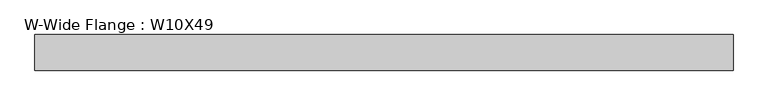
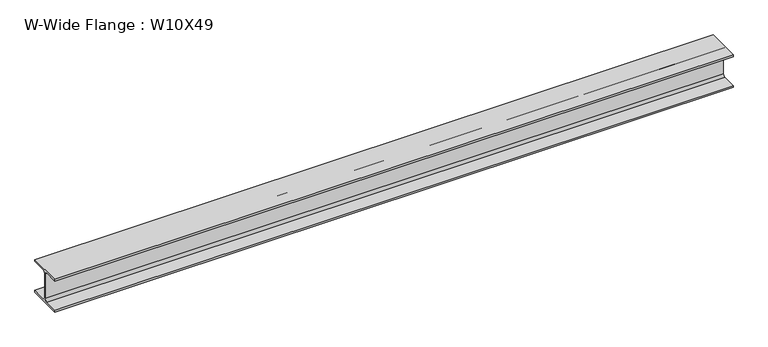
"""IFC4 building model written with IfcOpenShell, lengths in millimetres: beam geometry, W-Wide Flange : W10X49."""

from ifc_helpers import new_model, si_unit, point, frame, frame_2d, origin, place, context, project, spatial, polyline, circle_curve, trimmed, segment, composite_curve, outline, extrude, source, transform, mapped, element, save


def w_wide_flange_w10x49_791f69d4(model_context):
    return source(origin(), model_context, "Body", "SweptSolid", [
        extrude(outline(composite_curve([segment(polyline([(127.0, -112.776), (127.0, -127.0), (-127.0, -127.0), (-127.0, -112.776), (-21.844, -112.776)]), True, "CONTINUOUS"), segment(trimmed(circle_curve(frame_2d((-21.844, -95.25)), 17.526), [point((-21.844, -112.776))], [point((-4.318, -95.25))], True, "CARTESIAN"), True, "CONTINUOUS"), segment(polyline([(-4.318, -95.25), (-4.318, 95.25)]), True, "CONTINUOUS"), segment(trimmed(circle_curve(frame_2d((-21.844, 95.25)), 17.526), [point((-4.318, 95.25))], [point((-21.844, 112.776))], True, "CARTESIAN"), True, "CONTINUOUS"), segment(polyline([(-21.844, 112.776), (-127.0, 112.776), (-127.0, 127.0), (127.0, 127.0), (127.0, 112.776), (21.844, 112.776)]), True, "CONTINUOUS"), segment(trimmed(circle_curve(frame_2d((21.844, 95.25)), 17.526), [point((21.844, 112.776))], [point((4.318, 95.25))], True, "CARTESIAN"), True, "CONTINUOUS"), segment(polyline([(4.318, 95.25), (4.318, -95.25)]), True, "CONTINUOUS"), segment(trimmed(circle_curve(frame_2d((21.844, -95.25)), 17.526), [point((4.318, -95.25))], [point((21.844, -112.776))], True, "CARTESIAN"), True, "CONTINUOUS"), segment(polyline([(21.844, -112.776), (127.0, -112.776)]), True, "CONTINUOUS")], self_intersect=False)), frame((-2513.2454008, 0.0, 0.0), z_axis=(1.0, 0.0, 0.0), x_axis=(0.0, 1.0, 0.0)), (0.0, 0.0, 1.0), 4979.8450706),
    ])


if __name__ == "__main__":
    model = new_model("IFC4")
    model_context = context("Model", 3, world=origin())
    ifc_project = project(units=[si_unit("LENGTHUNIT", "METRE", prefix="MILLI")], contexts=[model_context])
    site = spatial("IfcSite", under=ifc_project)
    building = spatial("IfcBuilding", under=site)
    placement = place(None, origin())
    w_wide_flange_w10x49_shape = w_wide_flange_w10x49_791f69d4(model_context)
    element("IfcBeam", 1, ObjectType="W-Wide Flange : W10X49", at=placement, inside=building, context=model_context, shape_type="MappedRepresentation", body=[
        mapped(w_wide_flange_w10x49_shape, transform((0.0, 0.0, 0.0), x_axis=(1.0, 0.0, 0.0), y_axis=(0.0, 1.0, 0.0), z_axis=(0.0, 0.0, 1.0))),
    ])
    save(model, "model.ifc")
